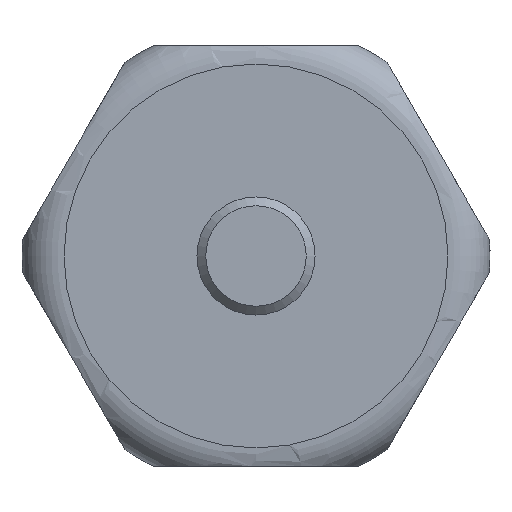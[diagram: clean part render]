
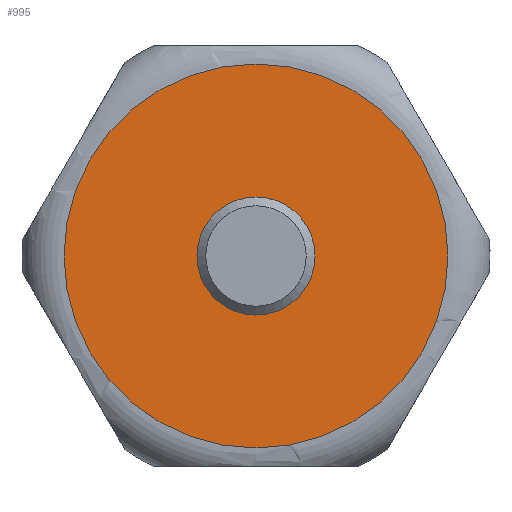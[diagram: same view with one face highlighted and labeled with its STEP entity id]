
A CAD part, left-side view. The second image highlights one B-rep face of the part: STEP entity #995.
In plain terms, the highlighted planar face has unit normal (-1, 0, 0).
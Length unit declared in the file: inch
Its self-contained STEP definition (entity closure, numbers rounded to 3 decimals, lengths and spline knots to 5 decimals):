
#149=FACE_BOUND('',#243,.T.);
#184=FACE_OUTER_BOUND('',#242,.T.);
#242=EDGE_LOOP('',(#775,#776));
#243=EDGE_LOOP('',(#777,#778));
#292=CIRCLE('',#1081,0.14764);
#293=CIRCLE('',#1082,0.14764);
#319=CIRCLE('',#1126,0.51181);
#320=CIRCLE('',#1127,0.51181);
#383=VERTEX_POINT('',#1588);
#384=VERTEX_POINT('',#1589);
#423=VERTEX_POINT('',#1849);
#424=VERTEX_POINT('',#1850);
#493=EDGE_CURVE('',#383,#384,#292,.T.);
#494=EDGE_CURVE('',#384,#383,#293,.T.);
#550=EDGE_CURVE('',#423,#424,#319,.T.);
#551=EDGE_CURVE('',#424,#423,#320,.T.);
#775=ORIENTED_EDGE('',*,*,#550,.F.);
#776=ORIENTED_EDGE('',*,*,#551,.F.);
#777=ORIENTED_EDGE('',*,*,#493,.T.);
#778=ORIENTED_EDGE('',*,*,#494,.T.);
#904=PLANE('',#1125);
#995=ADVANCED_FACE('',(#184,#149),#904,.T.);
#1081=AXIS2_PLACEMENT_3D('',#1590,#1278,#1279);
#1082=AXIS2_PLACEMENT_3D('',#1591,#1280,#1281);
#1125=AXIS2_PLACEMENT_3D('',#1848,#1382,#1383);
#1126=AXIS2_PLACEMENT_3D('',#1851,#1384,#1385);
#1127=AXIS2_PLACEMENT_3D('',#1852,#1386,#1387);
#1278=DIRECTION('center_axis',(1.,0.,0.));
#1279=DIRECTION('ref_axis',(0.,-0.866,0.5));
#1280=DIRECTION('center_axis',(1.,0.,0.));
#1281=DIRECTION('ref_axis',(0.,-0.866,0.5));
#1382=DIRECTION('center_axis',(-1.,0.,0.));
#1383=DIRECTION('ref_axis',(0.,-0.866,0.5));
#1384=DIRECTION('center_axis',(1.,0.,0.));
#1385=DIRECTION('ref_axis',(0.,0.866,-0.5));
#1386=DIRECTION('center_axis',(1.,0.,0.));
#1387=DIRECTION('ref_axis',(0.,0.866,-0.5));
#1588=CARTESIAN_POINT('',(-2.66747,-0.02656,-0.27052));
#1589=CARTESIAN_POINT('',(-2.66747,0.22916,-0.41816));
#1590=CARTESIAN_POINT('Origin',(-2.66747,0.1013,-0.34434));
#1591=CARTESIAN_POINT('Origin',(-2.66747,0.1013,-0.34434));
#1848=CARTESIAN_POINT('Origin',(-2.66747,0.54454,-0.60025));
#1849=CARTESIAN_POINT('',(-2.66747,0.54454,-0.60025));
#1850=CARTESIAN_POINT('',(-2.66747,-0.34194,-0.08844));
#1851=CARTESIAN_POINT('Origin',(-2.66747,0.1013,-0.34434));
#1852=CARTESIAN_POINT('Origin',(-2.66747,0.1013,-0.34434));
